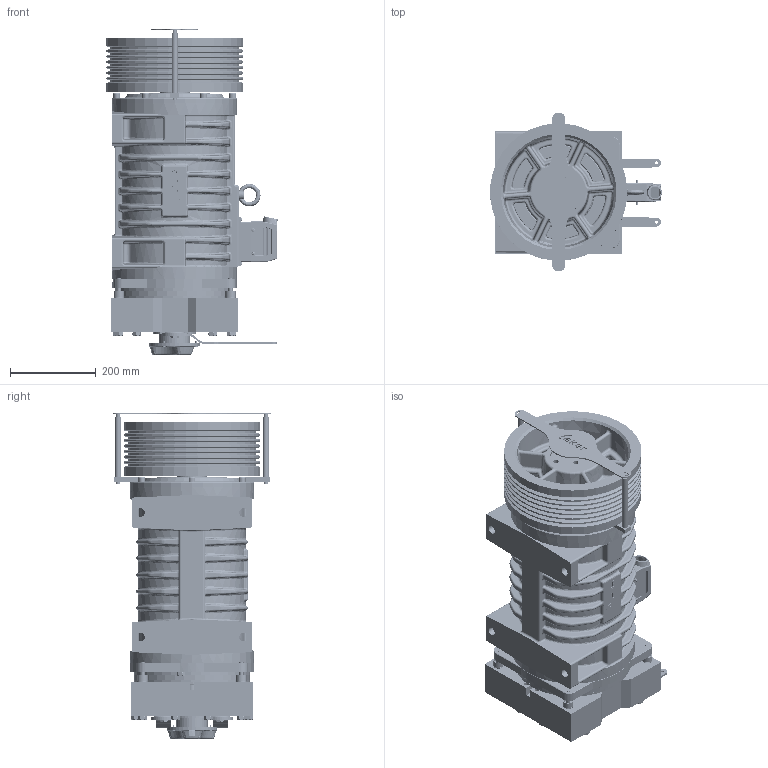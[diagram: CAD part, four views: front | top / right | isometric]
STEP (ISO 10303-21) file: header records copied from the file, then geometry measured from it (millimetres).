
FILE_DESCRIPTION (( 'STEP AP214' ), '1' );
FILE_NAME ('QS432100100.STEP', '2026-01-02T05:52:42', ( '' ), ( '' ), 'SwSTEP 2.0', 'SolidWorks 2023', '' );
FILE_SCHEMA (( 'AUTOMOTIVE_DESIGN' ));
Length unit declared in the file: millimetre
Products named in the file (1): QS432100100
Bounding box: 399.55 x 370 x 759.2 mm (x, y, z)
Volume: 23098804 mm3; surface area: 3656416.4 mm2
Topology: 107 solids, 107 shells, 4787 faces, 11282 edges, 6802 vertices
Faces by surface type: cylinder 1592, plane 1365, bspline 804, cone 501, torus 339, sphere 186
Entity records: 196673 total; most frequent: CARTESIAN_POINT 91225, ORIENTED_EDGE 22170, DIRECTION 21503, EDGE_CURVE 11085, AXIS2_PLACEMENT_3D 8695, VERTEX_POINT 6766, EDGE_LOOP 5323, ADVANCED_FACE 4787
